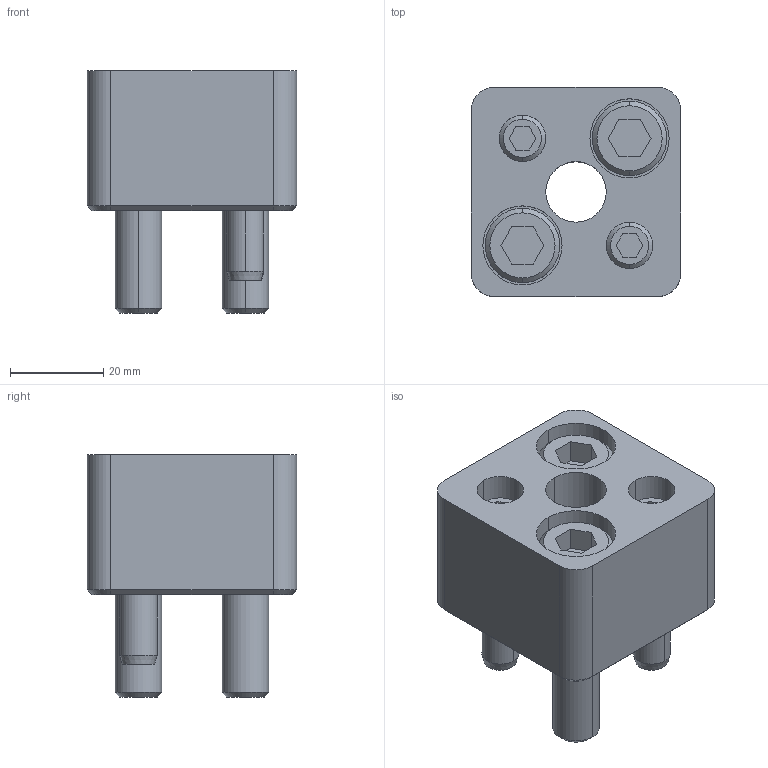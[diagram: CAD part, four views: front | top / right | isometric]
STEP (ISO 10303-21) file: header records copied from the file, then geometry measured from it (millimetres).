
FILE_DESCRIPTION(/* description */ (''),/* implementation_level */ '2;1');
FILE_NAME(/* name */ '3d_hmpsr13_04138_r00.stp',/* time_stamp */ '2011-01-10T14:14:41+09:00',/* author */ ('MISUMI'),/* organization */ (''),/* preprocessor_version */ 'ST-DEVELOPER v11',/* originating_system */ 'UGS - NX 5.0',/* authorisation */ '');
FILE_SCHEMA (('CONFIG_CONTROL_DESIGN'));
Length unit declared in the file: millimetre
Products named in the file (1): 3d_hmpsr13_04138_r00
Bounding box: 45 x 45 x 52 mm (x, y, z)
Volume: 56427 mm3; surface area: 21204.5 mm2
Topology: 7 solids, 7 shells, 143 faces, 310 edges, 196 vertices
Faces by surface type: plane 63, cylinder 50, cone 30
Entity records: 4026 total; most frequent: DIRECTION 718, CARTESIAN_POINT 704, ORIENTED_EDGE 620, EDGE_CURVE 310, AXIS2_PLACEMENT_3D 274, VERTEX_POINT 196, LINE 170, VECTOR 170
